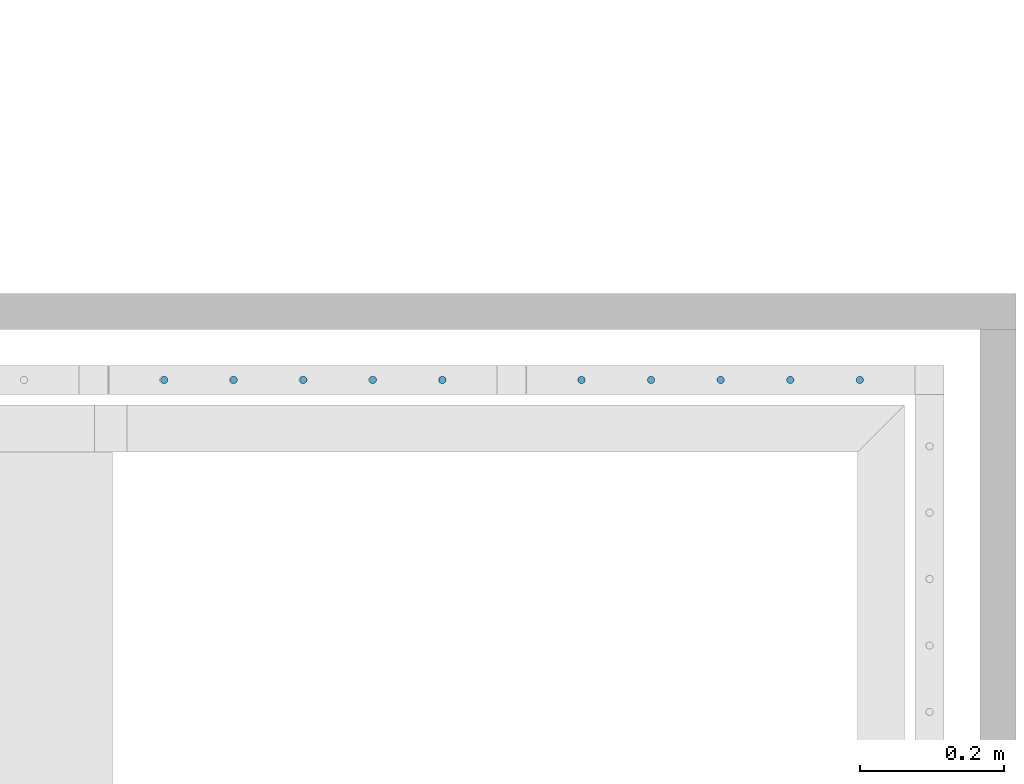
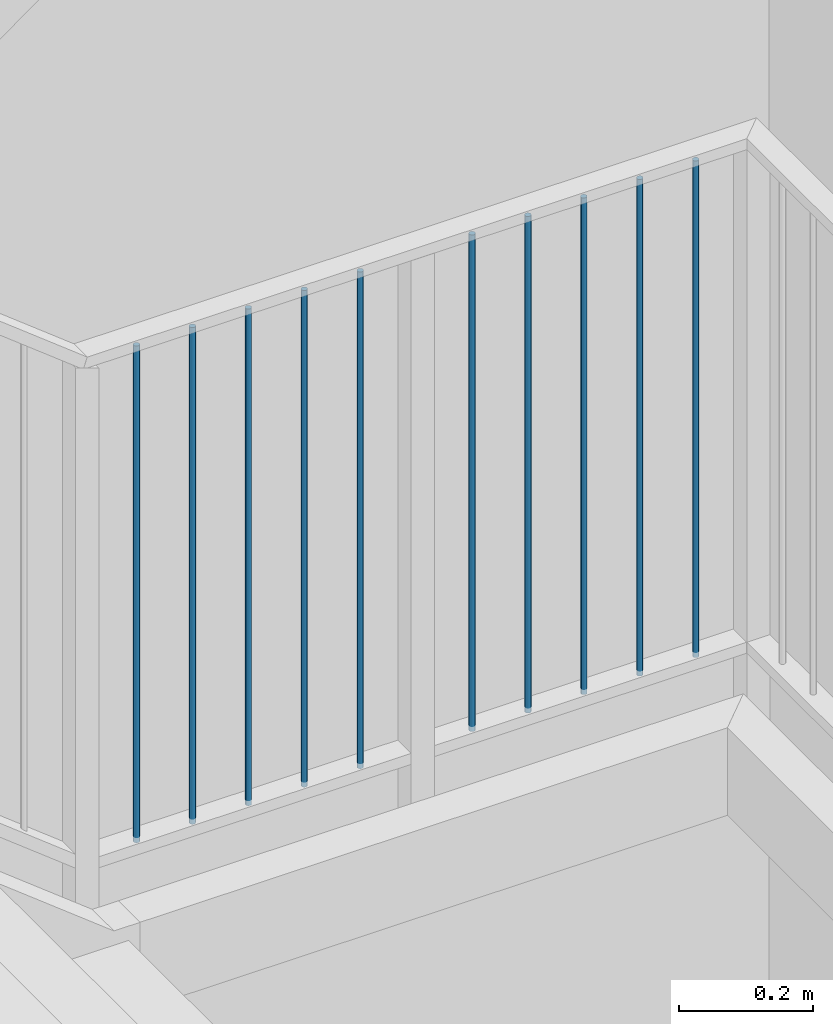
# One storey, part 41 of 135: 10 members, 1 element without a shape of its own.
"""IFC2X3 building model written with IfcOpenShell, lengths in millimetres."""

from ifc_helpers import new_model, entity, si_unit, converted_unit, derived_unit, money_unit, direction, frame, origin_with_axes, place, context, subcontext, project, spatial, faceted_brep, source, transform, mapped, material, type_object, type_shapes, element, aggregate, save


model = new_model("IFC2X3")

# Units and contexts
model_context = context("Model", 3, precision=0.01, world=origin_with_axes(), true_north=direction((0.0, 1.0)))
body_context = subcontext(model_context, "Body", "Model", "MODEL_VIEW")
ifc_project = project(units=[si_unit("LENGTHUNIT", "METRE", prefix="MILLI"), si_unit("AREAUNIT", "SQUARE_METRE"), si_unit("VOLUMEUNIT", "CUBIC_METRE"), converted_unit("PLANEANGLEUNIT", "DEGREE", entity("IfcPlaneAngleMeasure", 0.0174532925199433), si_unit("PLANEANGLEUNIT", "RADIAN"), dimensions=[0, 0, 0, 0, 0, 0, 0]), money_unit("EUR"), converted_unit("TIMEUNIT", "Year", entity("IfcTimeMeasure", 31557600.0), si_unit("TIMEUNIT", "SECOND"), dimensions=[0, 0, 1, 0, 0, 0, 0]), si_unit("MASSUNIT", "GRAM", prefix="KILO"), si_unit("THERMODYNAMICTEMPERATUREUNIT", "DEGREE_CELSIUS"), si_unit("LUMINOUSINTENSITYUNIT", "LUMEN"), si_unit("ENERGYUNIT", "JOULE", prefix="MEGA"), derived_unit("THERMALCONDUCTANCEUNIT", [(si_unit("POWERUNIT", "WATT"), 1), (si_unit("LENGTHUNIT", "METRE"), -1), (si_unit("THERMODYNAMICTEMPERATUREUNIT", "KELVIN"), -1)]), derived_unit("SPECIFICHEATCAPACITYUNIT", [(si_unit("ENERGYUNIT", "JOULE"), 1), (si_unit("MASSUNIT", "GRAM", prefix="KILO"), -1), (si_unit("THERMODYNAMICTEMPERATUREUNIT", "KELVIN"), -1)]), derived_unit("MASSDENSITYUNIT", [(si_unit("MASSUNIT", "GRAM", prefix="KILO"), 1), (si_unit("VOLUMEUNIT", "CUBIC_METRE"), -1)])], contexts=[model_context])

# Site, building, storey
site_placement = place(None, origin_with_axes())
site = spatial("IfcSite", under=ifc_project, at=site_placement, Name="Site", CompositionType="ELEMENT")
building_placement = place(site_placement, origin_with_axes())
building = spatial("IfcBuilding", under=site, at=building_placement, Name="Naam gebouw", CompositionType="ELEMENT")
storey_placement = place(building_placement, origin_with_axes())
storey = spatial("IfcBuildingStorey", under=building, at=storey_placement, Name="Begane grond N", CompositionType="ELEMENT", Elevation=0.0)

# Railing, members
railing_type = type_object("IfcRailingType", Name="Railing Type", PredefinedType="NOTDEFINED")
railing_placement = place(storey_placement, frame((56236.62159597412, 21185.9124251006, 157.4646725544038), z_axis=(0.0, 0.0, 1.0), x_axis=(1.0, 0.0, 0.0)))
railing = element("IfcRailing", 1, at=railing_placement, inside=storey, type_object=railing_type, Name="_Reling-x", PredefinedType="NOTDEFINED")
ifc_material = material(Name="Metaal - Staal C")
member_type = type_object("IfcMemberType", Name="IfcMember", PredefinedType="MEMBER")
shared_shape = source(origin_with_axes(), body_context, "Body", "Brep", [
    faceted_brep([(0.0, -5.0, 0.0), (0.8682408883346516, -4.92403876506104, 0.0), (0.868240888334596, -4.92403876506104, 907.5000000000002), (0.0, -5.0, 907.5000000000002), (-0.868240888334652, -4.92403876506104, 0.0), (-1.710100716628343, -4.698463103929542, 0.0), (-2.500000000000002, -4.330127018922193, 0.0), (-3.213938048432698, -3.830222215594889, 0.0), (-3.830222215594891, -3.213938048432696, 0.0), (-4.330127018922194, -2.5, 0.0), (-4.698463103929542, -1.710100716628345, 0.0), (-4.924038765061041, -0.86824088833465, 0.0), (-5.0, 0.0, 0.0), (-4.92403876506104, 0.8682408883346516, 0.0), (-4.698463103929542, 1.710100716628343, 0.0), (-4.330127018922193, 2.500000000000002, 0.0), (-3.83022221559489, 3.213938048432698, 0.0), (-3.213938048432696, 3.83022221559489, 0.0), (-2.5, 4.330127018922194, 0.0), (-1.710100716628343, 4.698463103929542, 0.0), (-0.8682408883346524, 4.92403876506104, 0.0), (0.0, 5.0, 0.0), (0.8682408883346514, 4.92403876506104, 0.0), (1.710100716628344, 4.698463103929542, 0.0), (2.5, 4.330127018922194, 0.0), (3.213938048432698, 3.83022221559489, 0.0), (3.83022221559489, 3.213938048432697, 0.0), (4.330127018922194, 2.499999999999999, 0.0), (4.698463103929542, 1.710100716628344, 0.0), (4.92403876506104, 0.8682408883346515, 0.0), (5.0, 0.0, 0.0), (4.92403876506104, -0.8682408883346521, 0.0), (4.698463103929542, -1.710100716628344, 0.0), (4.330127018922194, -2.5, 0.0), (3.83022221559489, -3.213938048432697, 0.0), (3.213938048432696, -3.83022221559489, 0.0), (2.5, -4.330127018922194, 0.0), (1.710100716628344, -4.698463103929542, 0.0), (1.710100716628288, -4.698463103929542, 907.5000000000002), (2.499999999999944, -4.330127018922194, 907.5000000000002), (3.213938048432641, -3.83022221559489, 907.5000000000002), (3.830222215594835, -3.213938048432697, 907.5000000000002), (4.330127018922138, -2.5, 907.5000000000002), (4.698463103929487, -1.710100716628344, 907.5000000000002), (4.924038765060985, -0.8682408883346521, 907.5000000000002), (4.999999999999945, 0.0, 907.5000000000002), (4.924038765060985, 0.8682408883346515, 907.5000000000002), (4.698463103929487, 1.710100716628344, 907.5000000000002), (4.330127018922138, 2.499999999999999, 907.5000000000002), (3.830222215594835, 3.213938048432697, 907.5000000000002), (3.213938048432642, 3.83022221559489, 907.5000000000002), (2.499999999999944, 4.330127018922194, 907.5000000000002), (1.710100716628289, 4.698463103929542, 907.5000000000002), (0.8682408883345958, 4.92403876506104, 907.5000000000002), (0.0, 5.0, 907.5000000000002), (-0.868240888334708, 4.92403876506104, 907.5000000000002), (-1.710100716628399, 4.698463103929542, 907.5000000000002), (-2.500000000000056, 4.330127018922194, 907.5000000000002), (-3.213938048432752, 3.83022221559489, 907.5000000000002), (-3.830222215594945, 3.213938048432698, 907.5000000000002), (-4.330127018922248, 2.500000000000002, 907.5000000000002), (-4.698463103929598, 1.710100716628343, 907.5000000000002), (-4.924038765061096, 0.8682408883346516, 907.5000000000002), (-5.000000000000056, 0.0, 907.5000000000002), (-4.924038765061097, -0.86824088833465, 907.5000000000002), (-4.698463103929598, -1.710100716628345, 907.5000000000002), (-4.330127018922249, -2.5, 907.5000000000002), (-3.830222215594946, -3.213938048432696, 907.5000000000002), (-3.213938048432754, -3.830222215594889, 907.5000000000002), (-2.500000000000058, -4.330127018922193, 907.5000000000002), (-1.710100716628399, -4.698463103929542, 907.5000000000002), (-0.8682408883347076, -4.92403876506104, 907.5000000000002)], [[[0, 1, 2, 3]], [[0, 4, 5, 6, 7, 8, 9, 10, 11, 12, 13, 14, 15, 16, 17, 18, 19, 20, 21, 22, 23, 24, 25, 26, 27, 28, 29, 30, 31, 32, 33, 34, 35, 36, 37, 1]], [[1, 37, 38, 2]], [[3, 2, 38, 39, 40, 41, 42, 43, 44, 45, 46, 47, 48, 49, 50, 51, 52, 53, 54, 55, 56, 57, 58, 59, 60, 61, 62, 63, 64, 65, 66, 67, 68, 69, 70, 71]], [[4, 0, 3, 71]], [[5, 4, 71, 70]], [[6, 5, 70, 69]], [[7, 6, 69, 68]], [[8, 7, 68, 67]], [[9, 8, 67, 66]], [[10, 9, 66, 65]], [[11, 10, 65, 64]], [[12, 11, 64, 63]], [[13, 12, 63, 62]], [[14, 13, 62, 61]], [[15, 14, 61, 60]], [[16, 15, 60, 59]], [[17, 16, 59, 58]], [[18, 17, 58, 57]], [[19, 18, 57, 56]], [[20, 19, 56, 55]], [[21, 20, 55, 54]], [[22, 21, 54, 53]], [[23, 22, 53, 52]], [[24, 23, 52, 51]], [[25, 24, 51, 50]], [[26, 25, 50, 49]], [[27, 26, 49, 48]], [[28, 27, 48, 47]], [[29, 28, 47, 46]], [[30, 29, 46, 45]], [[31, 30, 45, 44]], [[32, 31, 44, 43]], [[33, 32, 43, 42]], [[34, 33, 42, 41]], [[35, 34, 41, 40]], [[36, 35, 40, 39]], [[37, 36, 39, 38]]]),
])
type_shapes(member_type, [shared_shape])
member_1_placement = place(railing_placement, frame((3714.757005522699, 2465.000000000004, 2000.208938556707), z_axis=(0.0, 0.0, 1.0), x_axis=(1.0, 0.0, 0.0)))
member_1 = element("IfcMember", 2, at=member_1_placement, type_object=member_type, material=ifc_material, Name="_Spijlen-x", ObjectType="MEMBER", context=body_context, shape_type="MappedRepresentation", body=[
    mapped(shared_shape, transform((0.0, 0.0, 0.0), x_axis=(0.0, 1.0, 0.0), y_axis=(-1.0, 0.0, 0.0), z_axis=(0.0, 0.0, 1.0))),
])
member_2_placement = place(railing_placement, frame((3618.116677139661, 2465.000000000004, 2000.208938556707), z_axis=(0.0, 0.0, 1.0), x_axis=(1.0, 0.0, 0.0)))
member_2 = element("IfcMember", 3, at=member_2_placement, type_object=member_type, material=ifc_material, Name="_Spijlen-x", ObjectType="MEMBER", context=body_context, shape_type="MappedRepresentation", body=[
    mapped(shared_shape, transform((0.0, 0.0, 0.0), x_axis=(0.0, 1.0, 0.0), y_axis=(-1.0, 0.0, 0.0), z_axis=(0.0, 0.0, 1.0))),
])
member_3_placement = place(railing_placement, frame((3521.476348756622, 2465.000000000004, 2000.208938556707), z_axis=(0.0, 0.0, 1.0), x_axis=(1.0, 0.0, 0.0)))
member_3 = element("IfcMember", 4, at=member_3_placement, type_object=member_type, material=ifc_material, Name="_Spijlen-x", ObjectType="MEMBER", context=body_context, shape_type="MappedRepresentation", body=[
    mapped(shared_shape, transform((0.0, 0.0, 0.0), x_axis=(0.0, 1.0, 0.0), y_axis=(-1.0, 0.0, 0.0), z_axis=(0.0, 0.0, 1.0))),
])
member_4_placement = place(railing_placement, frame((3811.397333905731, 2465.000000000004, 2000.208938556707), z_axis=(0.0, 0.0, 1.0), x_axis=(1.0, 0.0, 0.0)))
member_4 = element("IfcMember", 5, at=member_4_placement, type_object=member_type, material=ifc_material, Name="_Spijlen-x", ObjectType="MEMBER", context=body_context, shape_type="MappedRepresentation", body=[
    mapped(shared_shape, transform((0.0, 0.0, 0.0), x_axis=(0.0, 1.0, 0.0), y_axis=(-1.0, 0.0, 0.0), z_axis=(0.0, 0.0, 1.0))),
])
member_5_placement = place(railing_placement, frame((3424.83602037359, 2465.000000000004, 2000.208938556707), z_axis=(0.0, 0.0, 1.0), x_axis=(1.0, 0.0, 0.0)))
member_5 = element("IfcMember", 6, at=member_5_placement, type_object=member_type, material=ifc_material, Name="_Spijlen-x", ObjectType="MEMBER", context=body_context, shape_type="MappedRepresentation", body=[
    mapped(shared_shape, transform((0.0, 0.0, 0.0), x_axis=(0.0, 1.0, 0.0), y_axis=(-1.0, 0.0, 0.0), z_axis=(0.0, 0.0, 1.0))),
])
member_6_placement = place(railing_placement, frame((3231.555363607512, 2465.000000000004, 2000.208938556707), z_axis=(0.0, 0.0, 1.0), x_axis=(1.0, 0.0, 0.0)))
member_6 = element("IfcMember", 7, at=member_6_placement, type_object=member_type, material=ifc_material, Name="_Spijlen-x", ObjectType="MEMBER", context=body_context, shape_type="MappedRepresentation", body=[
    mapped(shared_shape, transform((0.0, 0.0, 0.0), x_axis=(0.0, 1.0, 0.0), y_axis=(-1.0, 0.0, 0.0), z_axis=(0.0, 0.0, 1.0))),
])
member_7_placement = place(railing_placement, frame((3038.274706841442, 2465.000000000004, 2000.208938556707), z_axis=(0.0, 0.0, 1.0), x_axis=(1.0, 0.0, 0.0)))
member_7 = element("IfcMember", 8, at=member_7_placement, type_object=member_type, material=ifc_material, Name="_Spijlen-x", ObjectType="MEMBER", context=body_context, shape_type="MappedRepresentation", body=[
    mapped(shared_shape, transform((0.0, 0.0, 0.0), x_axis=(0.0, 1.0, 0.0), y_axis=(-1.0, 0.0, 0.0), z_axis=(0.0, 0.0, 1.0))),
])
member_8_placement = place(railing_placement, frame((2941.634378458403, 2465.000000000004, 2000.208938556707), z_axis=(0.0, 0.0, 1.0), x_axis=(1.0, 0.0, 0.0)))
member_8 = element("IfcMember", 9, at=member_8_placement, type_object=member_type, material=ifc_material, Name="_Spijlen-x", ObjectType="MEMBER", context=body_context, shape_type="MappedRepresentation", body=[
    mapped(shared_shape, transform((0.0, 0.0, 0.0), x_axis=(0.0, 1.0, 0.0), y_axis=(-1.0, 0.0, 0.0), z_axis=(0.0, 0.0, 1.0))),
])
member_9_placement = place(railing_placement, frame((3134.915035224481, 2465.000000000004, 2000.208938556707), z_axis=(0.0, 0.0, 1.0), x_axis=(1.0, 0.0, 0.0)))
member_9 = element("IfcMember", 10, at=member_9_placement, type_object=member_type, material=ifc_material, Name="_Spijlen-x", ObjectType="MEMBER", context=body_context, shape_type="MappedRepresentation", body=[
    mapped(shared_shape, transform((0.0, 0.0, 0.0), x_axis=(0.0, 1.0, 0.0), y_axis=(-1.0, 0.0, 0.0), z_axis=(0.0, 0.0, 1.0))),
])
member_10_placement = place(railing_placement, frame((2844.994050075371, 2465.000000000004, 2000.208938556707), z_axis=(0.0, 0.0, 1.0), x_axis=(1.0, 0.0, 0.0)))
member_10 = element("IfcMember", 11, at=member_10_placement, type_object=member_type, material=ifc_material, Name="_Spijlen-x", ObjectType="MEMBER", context=body_context, shape_type="MappedRepresentation", body=[
    mapped(shared_shape, transform((0.0, 0.0, 0.0), x_axis=(0.0, 1.0, 0.0), y_axis=(-1.0, 0.0, 0.0), z_axis=(0.0, 0.0, 1.0))),
])
aggregate(railing, [member_1, member_2, member_3, member_4, member_5, member_6, member_7, member_8, member_9, member_10])

save(model, "model.ifc")
